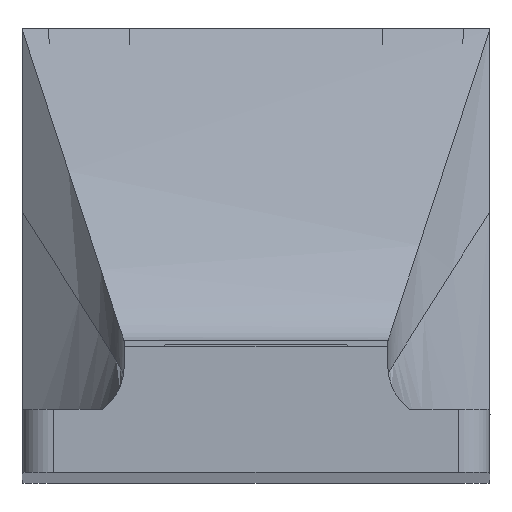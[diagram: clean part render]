
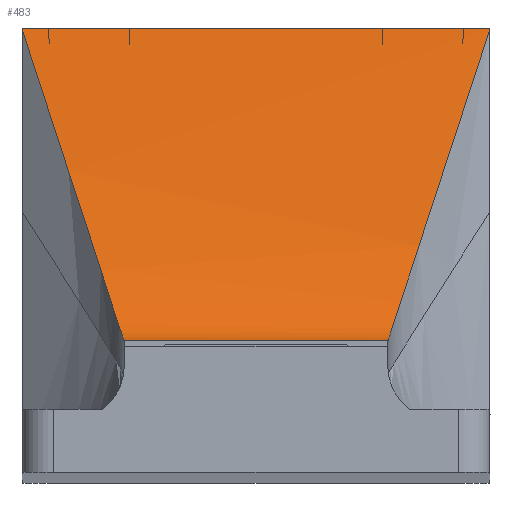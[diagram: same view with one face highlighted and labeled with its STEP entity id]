
A CAD part, top view. The second image highlights one B-rep face of the part: STEP entity #483.
In plain terms, the highlighted free-form (B-spline) face has degree [3, 3] with [4, 5] control points.
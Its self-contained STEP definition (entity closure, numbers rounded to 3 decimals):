
#29=B_SPLINE_SURFACE_WITH_KNOTS('',3,3,((#17325,#17326,#17327,#17328,#17329),
(#17330,#17331,#17332,#17333,#17334),(#17335,#17336,#17337,#17338,#17339),
(#17340,#17341,#17342,#17343,#17344)),.UNSPECIFIED.,.F.,.F.,.F.,(4,4),(4,
1,4),(0.,46.502),(0.,37.407,37.612),
 .UNSPECIFIED.);
#483=ADVANCED_FACE('',(#1069),#29,.T.);
#1069=FACE_OUTER_BOUND('',#1633,.T.);
#1633=EDGE_LOOP('',(#3809,#3810,#3811,#3812,#3813,#3814));
#3809=ORIENTED_EDGE('',*,*,#5890,.F.);
#3810=ORIENTED_EDGE('',*,*,#5888,.F.);
#3811=ORIENTED_EDGE('',*,*,#6268,.F.);
#3812=ORIENTED_EDGE('',*,*,#5859,.T.);
#3813=ORIENTED_EDGE('',*,*,#5919,.F.);
#3814=ORIENTED_EDGE('',*,*,#5914,.F.);
#5859=EDGE_CURVE('',#9079,#9080,#7930,.T.);
#5888=EDGE_CURVE('',#9094,#9093,#7953,.T.);
#5890=EDGE_CURVE('',#9093,#9095,#7955,.T.);
#5914=EDGE_CURVE('',#9095,#9123,#7979,.T.);
#5919=EDGE_CURVE('',#9123,#9080,#7982,.T.);
#6268=EDGE_CURVE('',#9079,#9094,#8221,.T.);
#7930=B_SPLINE_CURVE_WITH_KNOTS('',1,(#18608,#18609),.UNSPECIFIED.,.F.,
 .F.,(2,2),(0.,25.1),.UNSPECIFIED.);
#7953=B_SPLINE_CURVE_WITH_KNOTS('',3,(#18706,#18707,#18708,#18709,#18710,
#18711,#18712,#18713),.UNSPECIFIED.,.F.,.F.,(4,1,1,1,1,4),(-0.143,
-0.114,-0.086,-0.057,-0.029,
0.),.UNSPECIFIED.);
#7955=B_SPLINE_CURVE_WITH_KNOTS('',1,(#18716,#18717),.UNSPECIFIED.,.F.,
 .F.,(2,2),(-44.469,0.),.UNSPECIFIED.);
#7979=B_SPLINE_CURVE_WITH_KNOTS('',3,(#18794,#18795,#18796,#18797,#18798,
#18799,#18800,#18801),.UNSPECIFIED.,.F.,.F.,(4,1,1,1,1,4),(-0.143,
-0.114,-0.086,-0.057,-0.029,
0.),.UNSPECIFIED.);
#7982=B_SPLINE_CURVE_WITH_KNOTS('',3,(#18814,#18815,#18816,#18817),
 .UNSPECIFIED.,.F.,.F.,(4,4),(-36.857,0.),.UNSPECIFIED.);
#8221=B_SPLINE_CURVE_WITH_KNOTS('',3,(#20057,#20058,#20059,#20060),
 .UNSPECIFIED.,.F.,.F.,(4,4),(-36.857,0.),.UNSPECIFIED.);
#9079=VERTEX_POINT('',#18152);
#9080=VERTEX_POINT('',#18153);
#9093=VERTEX_POINT('',#18166);
#9094=VERTEX_POINT('',#18167);
#9095=VERTEX_POINT('',#18168);
#9123=VERTEX_POINT('',#18196);
#17325=CARTESIAN_POINT('',(4.001,43.327,137.929));
#17326=CARTESIAN_POINT('',(-2.833,23.208,142.264));
#17327=CARTESIAN_POINT('',(-6.251,13.144,146.645));
#17328=CARTESIAN_POINT('',(-6.198,13.301,151.048));
#17329=CARTESIAN_POINT('',(-6.197,13.303,151.072));
#17330=CARTESIAN_POINT('',(-11.5,43.327,137.929));
#17331=CARTESIAN_POINT('',(-13.778,23.208,142.264));
#17332=CARTESIAN_POINT('',(-14.917,13.144,146.645));
#17333=CARTESIAN_POINT('',(-14.899,13.301,151.048));
#17334=CARTESIAN_POINT('',(-14.899,13.303,151.072));
#17335=CARTESIAN_POINT('',(-27.,43.327,137.929));
#17336=CARTESIAN_POINT('',(-24.722,23.208,142.264));
#17337=CARTESIAN_POINT('',(-23.583,13.144,146.645));
#17338=CARTESIAN_POINT('',(-23.601,13.301,151.048));
#17339=CARTESIAN_POINT('',(-23.601,13.303,151.072));
#17340=CARTESIAN_POINT('',(-42.501,43.327,137.929));
#17341=CARTESIAN_POINT('',(-35.667,23.208,142.264));
#17342=CARTESIAN_POINT('',(-32.249,13.144,146.645));
#17343=CARTESIAN_POINT('',(-32.302,13.301,151.048));
#17344=CARTESIAN_POINT('',(-32.303,13.303,151.072));
#18152=CARTESIAN_POINT('',(-31.8,13.3,151.));
#18153=CARTESIAN_POINT('',(-6.7,13.3,151.));
#18166=CARTESIAN_POINT('',(-41.484,43.,138.));
#18167=CARTESIAN_POINT('',(-41.455,42.863,138.03));
#18168=CARTESIAN_POINT('',(2.984,43.,138.));
#18196=CARTESIAN_POINT('',(2.955,42.863,138.03));
#18608=CARTESIAN_POINT('',(-31.8,13.3,151.));
#18609=CARTESIAN_POINT('',(-6.7,13.3,151.));
#18706=CARTESIAN_POINT('',(-41.455,42.863,138.03));
#18707=CARTESIAN_POINT('',(-41.458,42.871,138.028));
#18708=CARTESIAN_POINT('',(-41.462,42.886,138.025));
#18709=CARTESIAN_POINT('',(-41.469,42.911,138.019));
#18710=CARTESIAN_POINT('',(-41.474,42.939,138.013));
#18711=CARTESIAN_POINT('',(-41.48,42.968,138.007));
#18712=CARTESIAN_POINT('',(-41.483,42.989,138.002));
#18713=CARTESIAN_POINT('',(-41.484,43.,138.));
#18716=CARTESIAN_POINT('',(-41.484,43.,138.));
#18717=CARTESIAN_POINT('',(2.984,43.,138.));
#18794=CARTESIAN_POINT('',(2.984,43.,138.));
#18795=CARTESIAN_POINT('',(2.983,42.989,138.002));
#18796=CARTESIAN_POINT('',(2.98,42.968,138.007));
#18797=CARTESIAN_POINT('',(2.975,42.939,138.013));
#18798=CARTESIAN_POINT('',(2.969,42.912,138.019));
#18799=CARTESIAN_POINT('',(2.962,42.886,138.025));
#18800=CARTESIAN_POINT('',(2.958,42.871,138.028));
#18801=CARTESIAN_POINT('',(2.955,42.863,138.03));
#18814=CARTESIAN_POINT('',(2.955,42.863,138.03));
#18815=CARTESIAN_POINT('',(-3.514,23.054,142.331));
#18816=CARTESIAN_POINT('',(-6.733,13.2,146.655));
#18817=CARTESIAN_POINT('',(-6.7,13.3,151.));
#20057=CARTESIAN_POINT('',(-31.8,13.3,151.));
#20058=CARTESIAN_POINT('',(-31.767,13.2,146.655));
#20059=CARTESIAN_POINT('',(-34.986,23.054,142.331));
#20060=CARTESIAN_POINT('',(-41.455,42.863,138.03));
